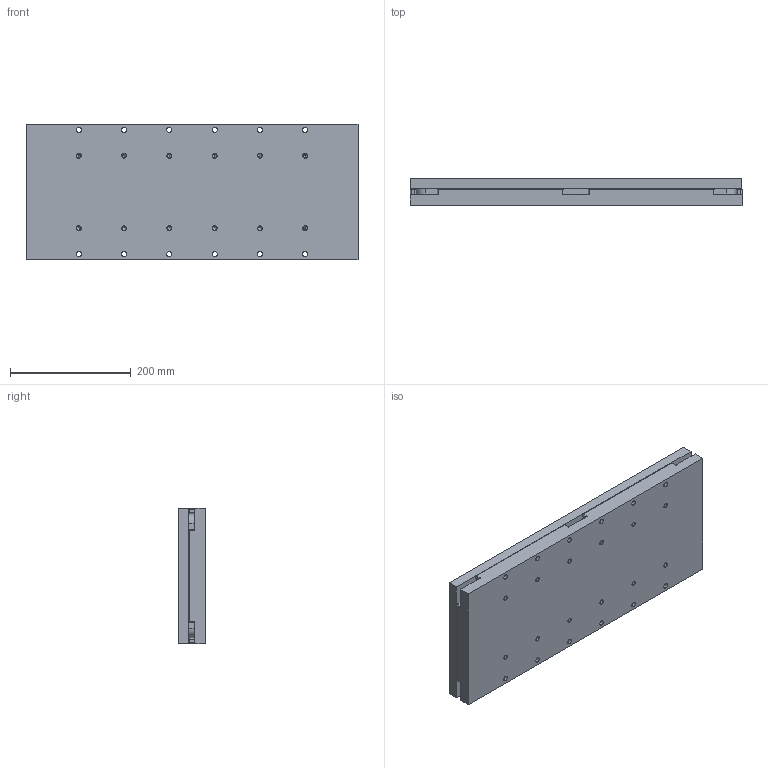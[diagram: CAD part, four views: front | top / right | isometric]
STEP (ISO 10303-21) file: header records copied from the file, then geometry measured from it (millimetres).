
FILE_DESCRIPTION (( 'STEP AP203' ), '1' );
FILE_NAME ('Ôîðìîîáðàçóþùàÿ 4000 Al äëÿ ÍÆÊ.STEP', '2026-04-22T08:57:57', ( '' ), ( '' ), 'SwSTEP 2.0', 'SolidWorks 2024', '' );
FILE_SCHEMA (( 'CONFIG_CONTROL_DESIGN' ));
Length unit declared in the file: millimetre
Products named in the file (4): А011_А010_Изолятор_4000А средний с ребрением; Формообразующая 4000 Al для НЖК; М.4000Al_Матрица_-00; ПС.4000Al_Пуансон_-00
Assembly tree (3 placements, depth 2):
  Формообразующая 4000 Al для НЖК
    М.4000Al_Матрица_-00
    ПС.4000Al_Пуансон_-00
    А011_А010_Изолятор_4000А средний с ребрением
Bounding box: 550 x 45 x 225 mm (x, y, z)
Volume: 5410853.2 mm3; surface area: 787277.4 mm2
Topology: 3 solids, 3 shells, 1657 faces, 3853 edges, 2201 vertices
Faces by surface type: cylinder 600, plane 521, torus 288, cone 232, bspline 16
Entity records: 48117 total; most frequent: CARTESIAN_POINT 9503, DIRECTION 8721, ORIENTED_EDGE 7578, EDGE_CURVE 3789, AXIS2_PLACEMENT_3D 3397, VERTEX_POINT 2201, VECTOR 1927, LINE 1927
